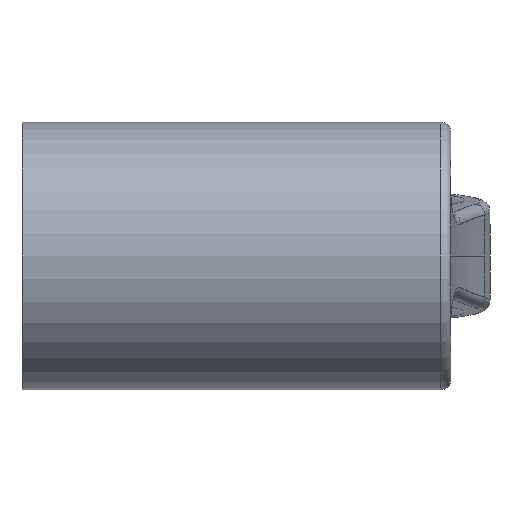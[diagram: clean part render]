
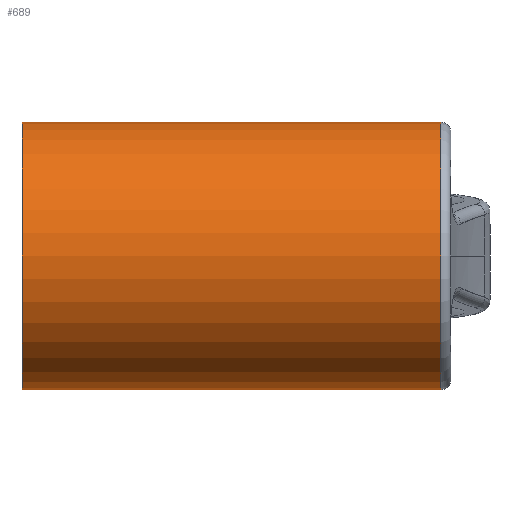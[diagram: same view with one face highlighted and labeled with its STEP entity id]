
A CAD part, front view. The second image highlights one B-rep face of the part: STEP entity #689.
In plain terms, the highlighted cylindrical face has radius 8 mm (diameter 16 mm), a partial arc.
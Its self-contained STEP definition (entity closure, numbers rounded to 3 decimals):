
#3 = CARTESIAN_POINT ( 'NONE',  ( 25.049, 0., 8. ) ) ;
#162 = EDGE_CURVE ( 'NONE', #1433, #371, #2132, .T. ) ;
#174 = AXIS2_PLACEMENT_3D ( 'NONE', #1995, #1672, #1837 ) ;
#178 = CIRCLE ( 'NONE', #174, 8. ) ;
#202 = CARTESIAN_POINT ( 'NONE',  ( 25.049, 0., -8. ) ) ;
#224 = DIRECTION ( 'NONE',  ( -1., 0., 0. ) ) ;
#265 = VECTOR ( 'NONE', #1678, 1000. ) ;
#360 = ORIENTED_EDGE ( 'NONE', *, *, #1394, .F. ) ;
#371 = VERTEX_POINT ( 'NONE', #837 ) ;
#576 = CARTESIAN_POINT ( 'NONE',  ( 0., 0., -8. ) ) ;
#577 = ORIENTED_EDGE ( 'NONE', *, *, #2174, .T. ) ;
#623 = VERTEX_POINT ( 'NONE', #202 ) ;
#689 = ADVANCED_FACE ( 'NONE', ( #977 ), #2154, .T. ) ;
#712 = DIRECTION ( 'NONE',  ( 0., 0., 1. ) ) ;
#837 = CARTESIAN_POINT ( 'NONE',  ( 0., 0., 8. ) ) ;
#873 = CARTESIAN_POINT ( 'NONE',  ( 0., 0., -8. ) ) ;
#977 = FACE_OUTER_BOUND ( 'NONE', #1446, .T. ) ;
#1065 = CARTESIAN_POINT ( 'NONE',  ( 0., 0., 0. ) ) ;
#1067 = EDGE_CURVE ( 'NONE', #623, #1767, #178, .T. ) ;
#1221 = AXIS2_PLACEMENT_3D ( 'NONE', #1989, #1349, #1848 ) ;
#1349 = DIRECTION ( 'NONE',  ( -1., 0., 0. ) ) ;
#1384 = DIRECTION ( 'NONE',  ( -1., 0., 0. ) ) ;
#1394 = EDGE_CURVE ( 'NONE', #623, #1433, #1587, .T. ) ;
#1433 = VERTEX_POINT ( 'NONE', #873 ) ;
#1446 = EDGE_LOOP ( 'NONE', ( #360, #1682, #577, #1664 ) ) ;
#1587 = LINE ( 'NONE', #576, #1647 ) ;
#1647 = VECTOR ( 'NONE', #1384, 1000. ) ;
#1664 = ORIENTED_EDGE ( 'NONE', *, *, #162, .F. ) ;
#1672 = DIRECTION ( 'NONE',  ( -1., 0., 0. ) ) ;
#1678 = DIRECTION ( 'NONE',  ( -1., 0., 0. ) ) ;
#1682 = ORIENTED_EDGE ( 'NONE', *, *, #1067, .T. ) ;
#1767 = VERTEX_POINT ( 'NONE', #3 ) ;
#1837 = DIRECTION ( 'NONE',  ( 0., 0., -1. ) ) ;
#1848 = DIRECTION ( 'NONE',  ( 0., 0., 1. ) ) ;
#1928 = AXIS2_PLACEMENT_3D ( 'NONE', #1065, #224, #712 ) ;
#1989 = CARTESIAN_POINT ( 'NONE',  ( 0., 0., 0. ) ) ;
#1995 = CARTESIAN_POINT ( 'NONE',  ( 25.049, 0., 0. ) ) ;
#2012 = LINE ( 'NONE', #2167, #265 ) ;
#2132 = CIRCLE ( 'NONE', #1928, 8. ) ;
#2154 = CYLINDRICAL_SURFACE ( 'NONE', #1221, 8. ) ;
#2167 = CARTESIAN_POINT ( 'NONE',  ( 0., 0., 8. ) ) ;
#2174 = EDGE_CURVE ( 'NONE', #1767, #371, #2012, .T. ) ;
